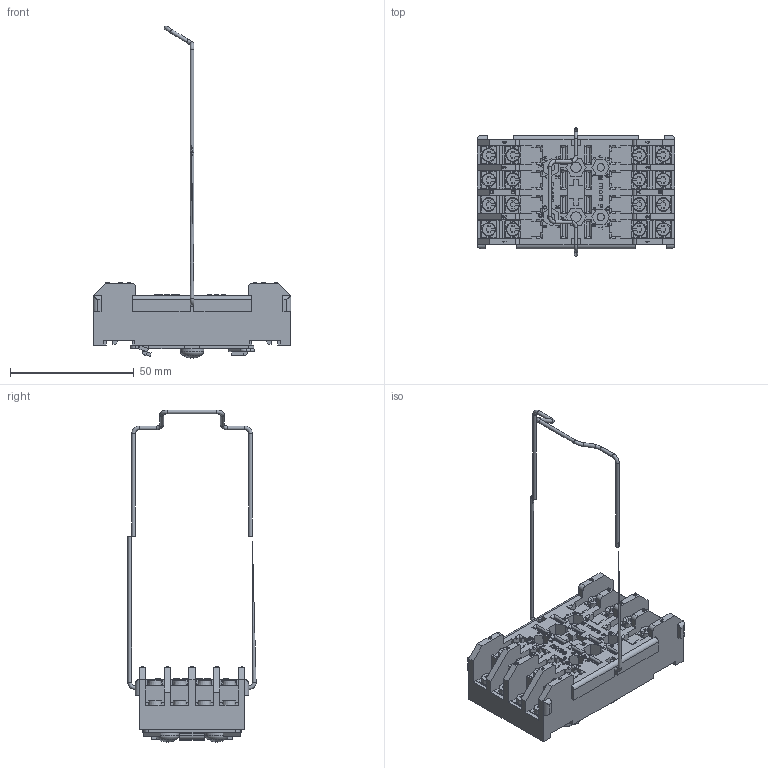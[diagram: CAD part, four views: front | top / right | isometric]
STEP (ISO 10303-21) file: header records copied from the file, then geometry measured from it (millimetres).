
FILE_DESCRIPTION(/* description */ (''),/* implementation_level */ '2;1');
FILE_NAME(/* name */ 'I:\TI\Bibliotheek\Inventor\Modellen Frankrijk\Relais voeten\EA-103\EA103-B + railklem\EA103-BD.stp',/* time_stamp */ '2016-06-06T14:05:27+02:00',/* author */ ('MtenHoopen'),/* organization */ (''),/* preprocessor_version */ 'ST-DEVELOPER v15.2',/* originating_system */ 'Autodesk Inventor 2014',/* authorisation */ '');
FILE_SCHEMA (('AUTOMOTIVE_DESIGN { 1 0 10303 214 3 1 1 }'));
Products named in the file (11): EA103_B400 PIECE1; VIS IMPERDABLE 927210; RONDELLE IMPERDABLE; Vis imperdable EA103; 927205_bibliothèque; 926851_bibliothèque; EA103; 906654; 396597401 A010 Rail clamp EA 103 socket; 216255100 Screw ECO SYN M5 x 10; EA103-BD
Bounding box: 80 x 51.8 x 134.16 mm (x, y, z)
Volume: 54799.8 mm3; surface area: 41290.5 mm2
Topology: 38 solids, 42 shells, 2975 faces, 8121 edges, 5333 vertices
Faces by surface type: plane 2473, cylinder 262, bspline 207, cone 16, torus 15, sphere 2
Full cylindrical faces by diameter (mm): 1 x6, 1.5 x11, 2 x8, 2.5 x32, 3 x20, 3.2 x2, 3.8 x4, 3.9 x16, 4.2 x4, 5 x2, 6.1 x2, 6.15 x2, 9.5 x2
Entity records: 66254 total; most frequent: CARTESIAN_POINT 14819, ORIENTED_EDGE 11168, DIRECTION 9348, EDGE_CURVE 5584, LINE 4734, VECTOR 4734, VERTEX_POINT 3703, EDGE_LOOP 2318
